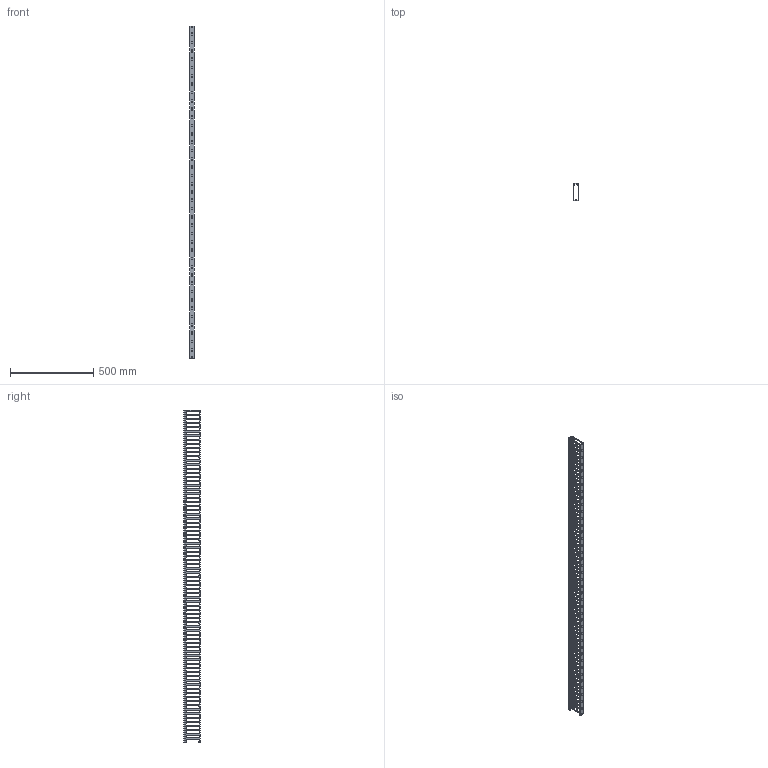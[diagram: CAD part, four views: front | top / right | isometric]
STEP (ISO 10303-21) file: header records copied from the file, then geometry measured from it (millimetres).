
FILE_DESCRIPTION (( 'STEP AP214' ), '1' );
FILE_NAME ('KD-310-20-LL.STEP', '2020-02-19T01:35:21', ( '' ), ( '' ), 'SwSTEP 2.0', 'SolidWorks 2018', '' );
FILE_SCHEMA (( 'AUTOMOTIVE_DESIGN' ));
Length unit declared in the file: millimetre
Products named in the file (3): KD-34-20-cover; KD-310-20-LL-body; KD-310-20-LL
Assembly tree (2 placements, depth 2):
  KD-310-20-LL
    KD-310-20-LL-body
    KD-34-20-cover
Bounding box: 30 x 100.17 x 2000 mm (x, y, z)
Volume: 608548.9 mm3; surface area: 797058.7 mm2
Topology: 2 solids, 2 shells, 1543 faces, 4617 edges, 3078 vertices
Faces by surface type: cylinder 795, plane 748
Entity records: 53319 total; most frequent: DIRECTION 9303, CARTESIAN_POINT 9243, ORIENTED_EDGE 9234, EDGE_CURVE 4617, AXIS2_PLACEMENT_3D 3138, VERTEX_POINT 3078, VECTOR 3027, LINE 3027
